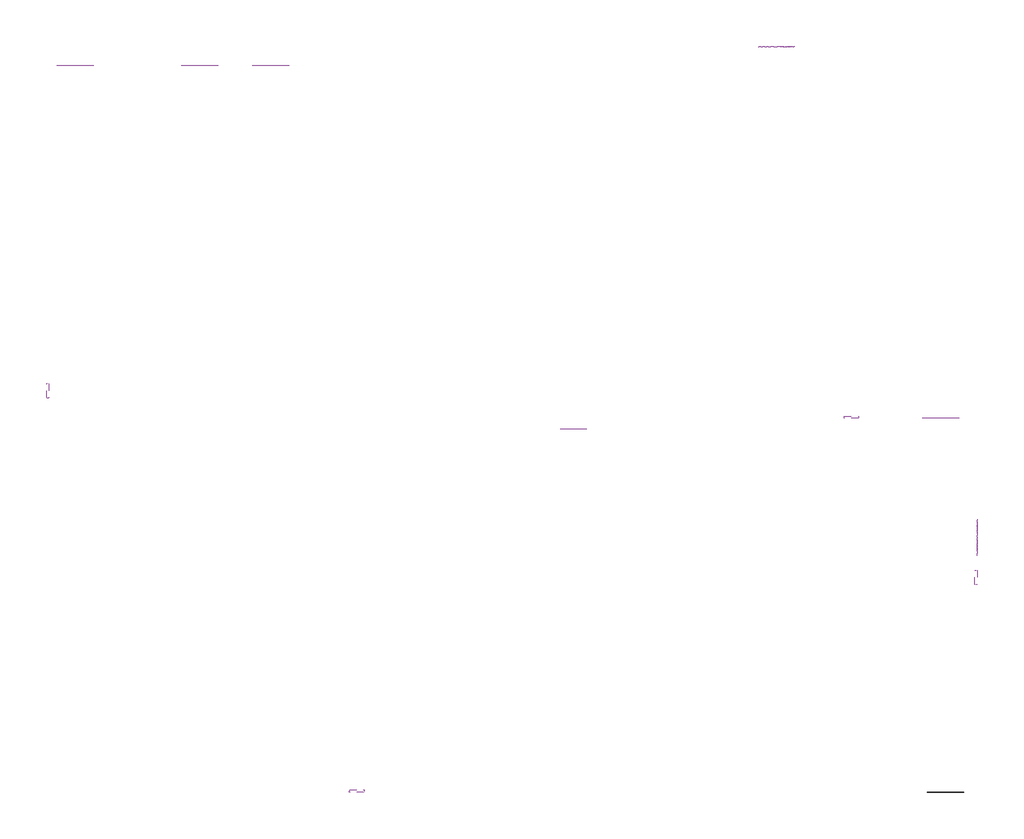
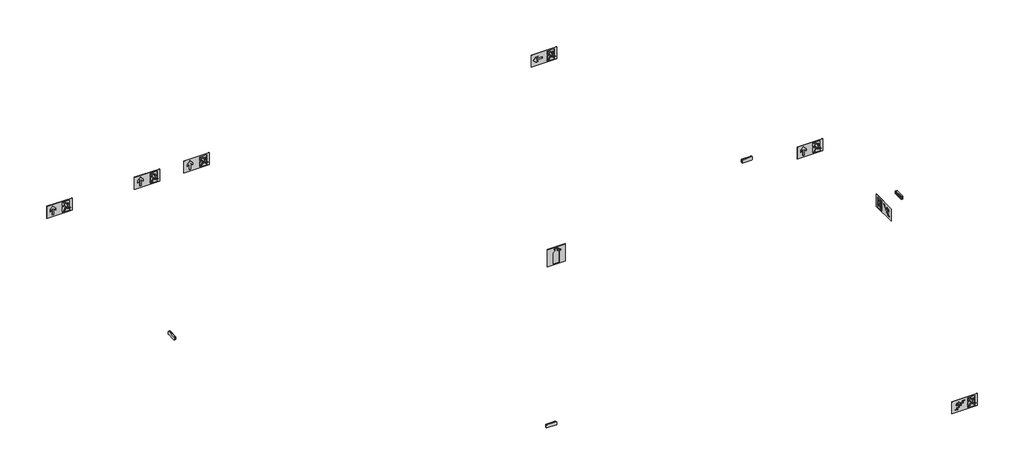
# One storey, incomplete: 8 flow terminals, 4 light fixtures.
"""IFC4 building model written with IfcOpenShell, lengths in millimetres."""

from ifc_helpers import new_model, si_unit, origin, place, context, project, spatial, transform, mapped, element, save
from components import flow_terminal_d03e9d94, flow_terminal_384159a2, flow_terminal_1950b40e, flow_terminal_be68b2b2, light_fixture_2w_85303c80

model = new_model("IFC4")

# Units and contexts
model_context = context("Model", 3, world=origin())
ifc_project = project(units=[si_unit("LENGTHUNIT", "METRE", prefix="MILLI")], contexts=[model_context])

# Site, building, storey
site = spatial("IfcSite", under=ifc_project)
building = spatial("IfcBuilding", under=site)
storey = spatial("IfcBuildingStorey", under=building, Name="Planta Baixa - 1º Andar", Elevation=3250.0)

# Flow terminals
placement = place(None, origin())
flow_terminal_shape = flow_terminal_d03e9d94(model_context)
element("IfcFlowTerminal", 1, ObjectType="PLACA DE SINALIZAÇÃO-S2 : Distancia maxima visibilidade - 10 metros", at=placement, inside=storey, context=model_context, shape_type="MappedRepresentation", body=[
    mapped(flow_terminal_shape, transform((16897.5649729, 3977.9710247, 5050.0), x_axis=(1.0, 0.0, 0.0), y_axis=(0.0, 1.0, 0.0), z_axis=(0.0, 0.0, 1.0))),
])
flow_terminal_2_shape = flow_terminal_384159a2(model_context)
element("IfcFlowTerminal", 2, ObjectType="PLACA DE SINALIZAÇÃO-S3 : Distancia maxima visibilidade - 10 metros", at=placement, inside=storey, context=model_context, shape_type="MappedRepresentation", body=[
    mapped(flow_terminal_2_shape, transform((19179.2444885, -1172.9124164, 5450.0), x_axis=(-1.0, 0.0, 0.0), y_axis=(0.0, -1.0, 0.0), z_axis=(0.0, 0.0, 1.0))),
])
element("IfcFlowTerminal", 3, ObjectType="PLACA DE SINALIZAÇÃO-S3 : Distancia maxima visibilidade - 10 metros", at=placement, inside=storey, context=model_context, shape_type="MappedRepresentation", body=[
    mapped(flow_terminal_2_shape, transform((9882.3381942, 3711.2742053, 5450.0), x_axis=(-1.0, 0.0, 0.0), y_axis=(0.0, -1.0, 0.0), z_axis=(0.0, 0.0, 1.0))),
])
element("IfcFlowTerminal", 4, ObjectType="PLACA DE SINALIZAÇÃO-S3 : Distancia maxima visibilidade - 10 metros", at=placement, inside=storey, context=model_context, shape_type="MappedRepresentation", body=[
    mapped(flow_terminal_2_shape, transform((8902.3381942, 3711.2742053, 5450.0), x_axis=(-1.0, 0.0, 0.0), y_axis=(0.0, -1.0, 0.0), z_axis=(0.0, 0.0, 1.0))),
])
element("IfcFlowTerminal", 5, ObjectType="PLACA DE SINALIZAÇÃO-S3 : Distancia maxima visibilidade - 10 metros", at=placement, inside=storey, context=model_context, shape_type="MappedRepresentation", body=[
    mapped(flow_terminal_2_shape, transform((7172.3381942, 3711.2742053, 5450.0), x_axis=(-1.0, 0.0, 0.0), y_axis=(0.0, -1.0, 0.0), z_axis=(0.0, 0.0, 1.0))),
])
flow_terminal_3_shape = flow_terminal_1950b40e(model_context)
element("IfcFlowTerminal", 6, ObjectType="PLACA DE SINALIZAÇÃO-S9 : Distancia maxima visibilidade - 10 metros", at=placement, inside=storey, context=model_context, shape_type="MappedRepresentation", body=[
    mapped(flow_terminal_3_shape, transform((19679.2444885, -2828.0947146, 5050.0), x_axis=(0.0, 1.0, 0.0), y_axis=(-1.0, 0.0, 0.0), z_axis=(0.0, 0.0, 1.0))),
])
element("IfcFlowTerminal", 7, ObjectType="PLACA DE SINALIZAÇÃO-S9 : Distancia maxima visibilidade - 10 metros", at=placement, inside=storey, context=model_context, shape_type="MappedRepresentation", body=[
    mapped(flow_terminal_3_shape, transform((19238.7821923, -6356.7511234, 3250.0), x_axis=(1.0, 0.0, 0.0), y_axis=(0.0, 1.0, 0.0), z_axis=(0.0, 0.0, 1.0))),
])
flow_terminal_4_shape = flow_terminal_be68b2b2(model_context)
element("IfcFlowTerminal", 8, ObjectType="PLACA DE SINALIZAÇÃO-E5 : Distancia maxima visibilidade - 10 metros", at=placement, inside=storey, context=model_context, shape_type="MappedRepresentation", body=[
    mapped(flow_terminal_4_shape, transform((14079.2444885, -1327.0289753, 5050.0), x_axis=(-1.0, 0.0, 0.0), y_axis=(0.0, -1.0, 0.0), z_axis=(0.0, 0.0, 1.0))),
])

# Light fixtures
light_fixture_2w_shape = light_fixture_2w_85303c80(model_context)
element("IfcLightFixture", 9, ObjectType="Luminária de Emergência na parede vinculada : 2W", at=placement, inside=storey, context=model_context, shape_type="MappedRepresentation", body=[
    mapped(light_fixture_2w_shape, transform((17937.0616655, -1177.0289753, 3250.0), x_axis=(1.0, 0.0, 0.0), y_axis=(0.0, 1.0, 0.0), z_axis=(0.0, 0.0, 1.0))),
])
element("IfcLightFixture", 10, ObjectType="Luminária de Emergência na parede vinculada : 2W", at=placement, inside=storey, context=model_context, shape_type="MappedRepresentation", body=[
    mapped(light_fixture_2w_shape, transform((19679.2444885, -3382.4123218, 3250.0), x_axis=(0.0, 1.0, 0.0), y_axis=(-1.0, 0.0, 0.0), z_axis=(0.0, 0.0, 1.0))),
])
element("IfcLightFixture", 11, ObjectType="Luminária de Emergência na parede vinculada : 2W", at=placement, inside=storey, context=model_context, shape_type="MappedRepresentation", body=[
    mapped(light_fixture_2w_shape, transform((6778.8601505, -794.4210105, 3250.0), x_axis=(0.0, -1.0, 0.0), y_axis=(1.0, 0.0, 0.0), z_axis=(0.0, 0.0, 1.0))),
])
element("IfcLightFixture", 12, ObjectType="Luminária de Emergência na parede vinculada : 2W", at=placement, inside=storey, context=model_context, shape_type="MappedRepresentation", body=[
    mapped(light_fixture_2w_shape, transform((11080.1912595, -6356.5776154, 3250.0), x_axis=(1.0, 0.0, 0.0), y_axis=(0.0, 1.0, 0.0), z_axis=(0.0, 0.0, 1.0))),
])

save(model, "model.ifc")
